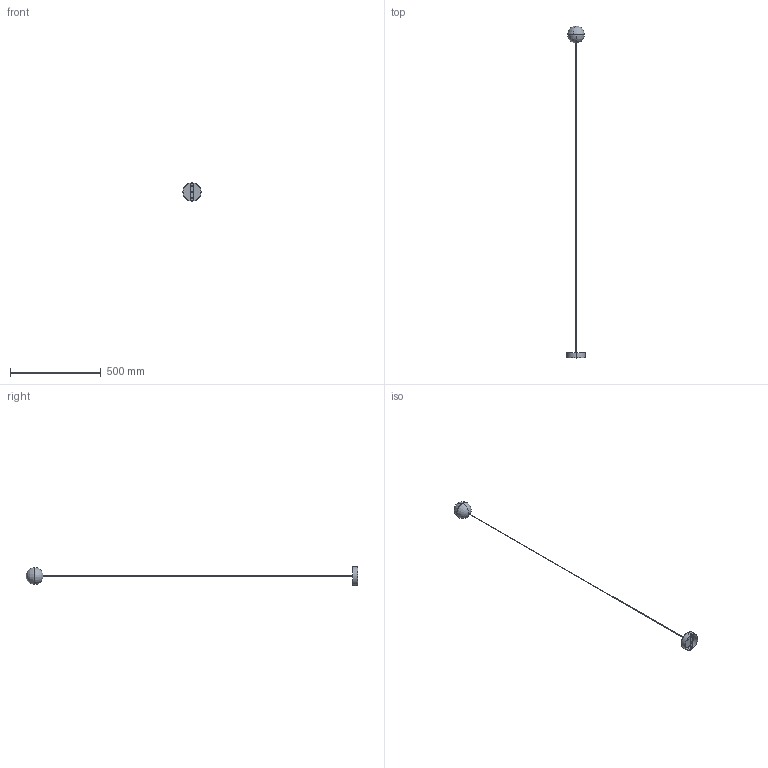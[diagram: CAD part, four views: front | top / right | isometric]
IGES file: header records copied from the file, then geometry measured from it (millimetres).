
Start section: SolidWorks IGES file using analytic representation for surfaces
Global section: file name: \\192.168.111.232\grupos\DISENYO\DESARROLLO DE PRODUCTO\CUSTO-3818\C3901 - CUSTO COLGANTE\CUSTO - C3818.IGS; native system: SolidWorks 2025; preprocessor: SolidWorks 2025; author: o.domenech; date: 260407.072624; units: millimetre
Bounding box: 100 x 1828 x 100 mm (x, y, z)
Volume: 291057.8 mm3; surface area: 99866.1 mm2
Topology: 6 solids, 6 shells, 54 faces, 232 edges, 301 vertices
Faces by surface type: revolution 29, plane 25
